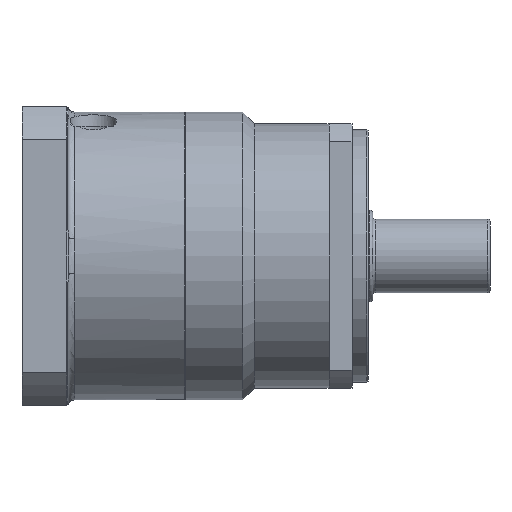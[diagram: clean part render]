
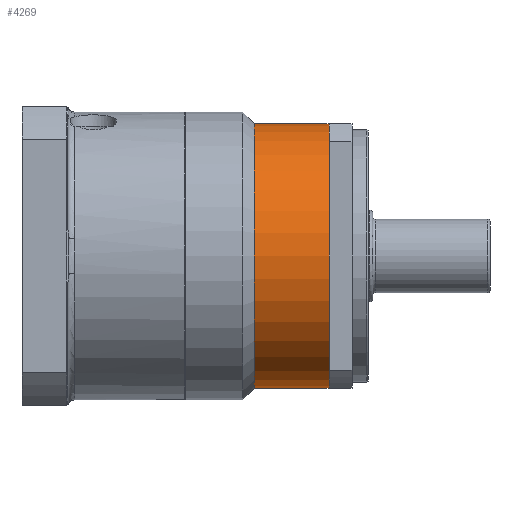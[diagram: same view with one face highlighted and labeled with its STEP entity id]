
A CAD part, front view. The second image highlights one B-rep face of the part: STEP entity #4269.
In plain terms, the highlighted cylindrical face has radius 57.5 mm (diameter 115 mm), a full revolution.
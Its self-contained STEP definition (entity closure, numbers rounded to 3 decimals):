
#1893=FACE_BOUND('',#6851,.T.);
#1894=FACE_BOUND('',#6852,.T.);
#3137=CIRCLE('',#19283,57.5);
#3139=CIRCLE('',#19286,57.5);
#3141=CIRCLE('',#19289,57.5);
#3143=CIRCLE('',#19292,57.5);
#3157=CIRCLE('',#19320,57.5);
#4269=ADVANCED_FACE('',(#1893,#1894),#4614,.T.);
#4614=CYLINDRICAL_SURFACE('',#19321,57.5);
#6851=EDGE_LOOP('',(#11821));
#6852=EDGE_LOOP('',(#11822,#11823,#11824,#11825));
#11821=ORIENTED_EDGE('',*,*,#15594,.F.);
#11822=ORIENTED_EDGE('',*,*,#15572,.T.);
#11823=ORIENTED_EDGE('',*,*,#15576,.T.);
#11824=ORIENTED_EDGE('',*,*,#15567,.T.);
#11825=ORIENTED_EDGE('',*,*,#15564,.T.);
#13238=VERTEX_POINT('',#35065);
#13239=VERTEX_POINT('',#35067);
#13241=VERTEX_POINT('',#35074);
#13243=VERTEX_POINT('',#35081);
#13262=VERTEX_POINT('',#35156);
#15564=EDGE_CURVE('',#13238,#13239,#3137,.T.);
#15567=EDGE_CURVE('',#13241,#13238,#3139,.T.);
#15572=EDGE_CURVE('',#13239,#13243,#3141,.T.);
#15576=EDGE_CURVE('',#13243,#13241,#3143,.T.);
#15594=EDGE_CURVE('',#13262,#13262,#3157,.T.);
#19283=AXIS2_PLACEMENT_3D('',#35068,#24444,#24445);
#19286=AXIS2_PLACEMENT_3D('',#35073,#24451,#24452);
#19289=AXIS2_PLACEMENT_3D('',#35082,#24460,#24461);
#19292=AXIS2_PLACEMENT_3D('',#35088,#24468,#24469);
#19320=AXIS2_PLACEMENT_3D('',#35155,#24526,#24527);
#19321=AXIS2_PLACEMENT_3D('',#35157,#24528,#24529);
#24444=DIRECTION('',(-1.,0.,0.));
#24445=DIRECTION('',(0.,0.,-1.));
#24451=DIRECTION('',(-1.,0.,0.));
#24452=DIRECTION('',(0.,0.,-1.));
#24460=DIRECTION('',(-1.,0.,0.));
#24461=DIRECTION('',(0.,0.,-1.));
#24468=DIRECTION('',(-1.,0.,0.));
#24469=DIRECTION('',(0.,0.,-1.));
#24526=DIRECTION('',(-1.,0.,0.));
#24527=DIRECTION('',(0.,0.,-1.));
#24528=DIRECTION('',(-1.,0.,0.));
#24529=DIRECTION('',(0.,0.,-1.));
#35065=CARTESIAN_POINT('',(-70.,57.5,0.));
#35067=CARTESIAN_POINT('',(-70.,0.,-57.5));
#35068=CARTESIAN_POINT('',(-70.,0.,0.));
#35073=CARTESIAN_POINT('',(-70.,0.,0.));
#35074=CARTESIAN_POINT('',(-70.,0.,57.5));
#35081=CARTESIAN_POINT('',(-70.,-57.5,0.));
#35082=CARTESIAN_POINT('',(-70.,0.,0.));
#35088=CARTESIAN_POINT('',(-70.,0.,0.));
#35155=CARTESIAN_POINT('',(-102.5,0.,0.));
#35156=CARTESIAN_POINT('',(-102.5,0.,-57.5));
#35157=CARTESIAN_POINT('',(-102.5,0.,0.));
